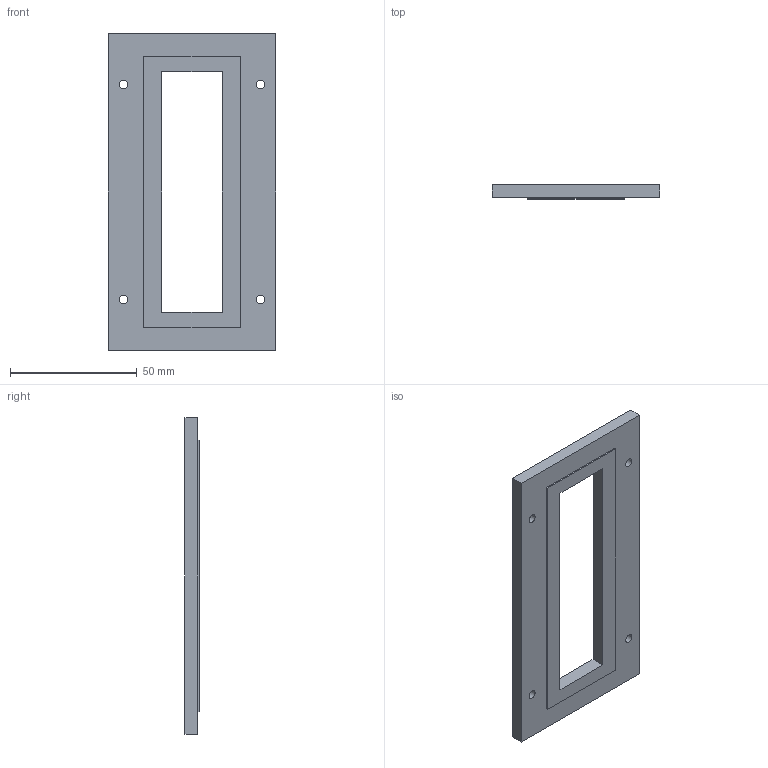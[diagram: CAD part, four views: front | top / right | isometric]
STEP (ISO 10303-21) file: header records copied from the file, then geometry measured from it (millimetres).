
FILE_DESCRIPTION(('Open CASCADE Model'),'2;1');
FILE_NAME('Open CASCADE Shape Model','2026-07-25T17:38:07',('Author'),( 'Open CASCADE'),'Open CASCADE STEP processor 7.9','build123d', 'Unknown');
FILE_SCHEMA(('AUTOMOTIVE_DESIGN { 1 0 10303 214 1 1 1 1 }'));
Length unit declared in the file: millimetre
Products named in the file (1): COMPOUND
Bounding box: 66 x 5.55 x 125 mm (x, y, z)
Volume: 30641.4 mm3; surface area: 15559.2 mm2
Topology: 1 solids, 1 shells, 550 faces, 1509 edges, 1006 vertices
Faces by surface type: extrusion 335, plane 211, cylinder 4
Full cylindrical faces by diameter (mm): 3.4 x4
Entity records: 42184 total; most frequent: CARTESIAN_POINT 15554, DIRECTION 3299, ORIENTED_EDGE 3018, PCURVE 3018, DEFINITIONAL_REPRESENTATION 3018, VECTOR 2851, LINE 2516, B_SPLINE_CURVE_WITH_KNOTS 2330
